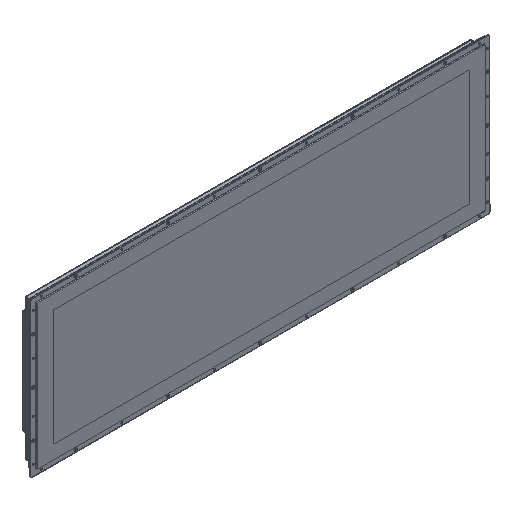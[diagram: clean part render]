
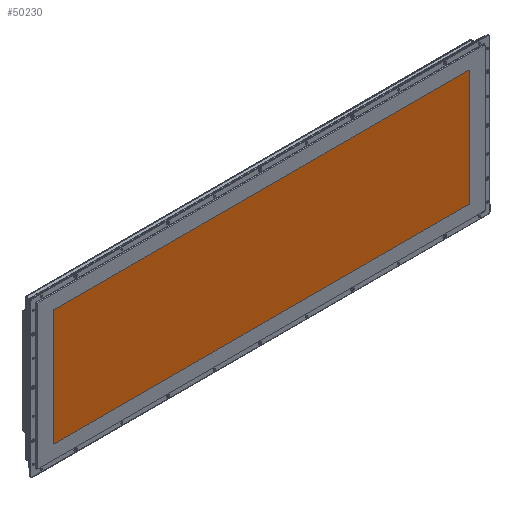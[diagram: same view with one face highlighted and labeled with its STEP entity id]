
A CAD part, isometric view. The second image highlights one B-rep face of the part: STEP entity #50230.
In plain terms, the highlighted planar face has unit normal (0, -1, 0).
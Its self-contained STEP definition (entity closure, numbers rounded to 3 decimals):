
#3707=CIRCLE('',#53946,2.);
#3708=CIRCLE('',#53947,2.);
#3709=CIRCLE('',#53948,2.);
#3710=CIRCLE('',#53949,2.);
#5783=FACE_OUTER_BOUND('',#8976,.T.);
#8976=EDGE_LOOP('',(#34650,#34651,#34652,#34653,#34654,#34655,#34656,#34657));
#12316=LINE('',#75775,#16234);
#12317=LINE('',#75779,#16235);
#12318=LINE('',#75783,#16236);
#12319=LINE('',#75786,#16237);
#16234=VECTOR('',#61292,10.);
#16235=VECTOR('',#61295,10.);
#16236=VECTOR('',#61298,10.);
#16237=VECTOR('',#61301,10.);
#20430=VERTEX_POINT('',#75771);
#20431=VERTEX_POINT('',#75772);
#20432=VERTEX_POINT('',#75774);
#20433=VERTEX_POINT('',#75776);
#20434=VERTEX_POINT('',#75778);
#20435=VERTEX_POINT('',#75780);
#20436=VERTEX_POINT('',#75782);
#20437=VERTEX_POINT('',#75784);
#25727=EDGE_CURVE('',#20430,#20431,#3707,.T.);
#25728=EDGE_CURVE('',#20431,#20432,#12316,.T.);
#25729=EDGE_CURVE('',#20432,#20433,#3708,.T.);
#25730=EDGE_CURVE('',#20433,#20434,#12317,.T.);
#25731=EDGE_CURVE('',#20434,#20435,#3709,.T.);
#25732=EDGE_CURVE('',#20435,#20436,#12318,.T.);
#25733=EDGE_CURVE('',#20436,#20437,#3710,.T.);
#25734=EDGE_CURVE('',#20437,#20430,#12319,.T.);
#34650=ORIENTED_EDGE('',*,*,#25727,.T.);
#34651=ORIENTED_EDGE('',*,*,#25728,.T.);
#34652=ORIENTED_EDGE('',*,*,#25729,.T.);
#34653=ORIENTED_EDGE('',*,*,#25730,.T.);
#34654=ORIENTED_EDGE('',*,*,#25731,.T.);
#34655=ORIENTED_EDGE('',*,*,#25732,.T.);
#34656=ORIENTED_EDGE('',*,*,#25733,.T.);
#34657=ORIENTED_EDGE('',*,*,#25734,.T.);
#45294=PLANE('',#53945);
#50230=ADVANCED_FACE('',(#5783),#45294,.T.);
#53945=AXIS2_PLACEMENT_3D('',#75770,#61288,#61289);
#53946=AXIS2_PLACEMENT_3D('',#75773,#61290,#61291);
#53947=AXIS2_PLACEMENT_3D('',#75777,#61293,#61294);
#53948=AXIS2_PLACEMENT_3D('',#75781,#61296,#61297);
#53949=AXIS2_PLACEMENT_3D('',#75785,#61299,#61300);
#61288=DIRECTION('center_axis',(0.,-1.,0.));
#61289=DIRECTION('ref_axis',(1.,0.,0.));
#61290=DIRECTION('center_axis',(0.,-1.,0.));
#61291=DIRECTION('ref_axis',(0.,0.,
-1.));
#61292=DIRECTION('',(0.,0.,-1.));
#61293=DIRECTION('center_axis',(0.,-1.,0.));
#61294=DIRECTION('ref_axis',(1.,0.,0.));
#61295=DIRECTION('',(1.,0.,0.));
#61296=DIRECTION('center_axis',(0.,-1.,0.));
#61297=DIRECTION('ref_axis',(0.,0.,
1.));
#61298=DIRECTION('',(0.,0.,1.));
#61299=DIRECTION('center_axis',(0.,-1.,0.));
#61300=DIRECTION('ref_axis',(-1.,0.,0.));
#61301=DIRECTION('',(-1.,0.,0.));
#75770=CARTESIAN_POINT('Origin',(0.,-5.5,
0.));
#75771=CARTESIAN_POINT('',(-449.,-5.5,126.));
#75772=CARTESIAN_POINT('',(-451.,-5.5,124.));
#75773=CARTESIAN_POINT('Origin',(-449.,-5.5,124.));
#75774=CARTESIAN_POINT('',(-451.,-5.5,-124.));
#75775=CARTESIAN_POINT('',(-451.,-5.5,62.));
#75776=CARTESIAN_POINT('',(-449.,-5.5,-126.));
#75777=CARTESIAN_POINT('Origin',(-449.,-5.5,-124.));
#75778=CARTESIAN_POINT('',(449.,-5.5,-126.));
#75779=CARTESIAN_POINT('',(-224.5,-5.5,-126.));
#75780=CARTESIAN_POINT('',(451.,-5.5,-124.));
#75781=CARTESIAN_POINT('Origin',(449.,-5.5,-124.));
#75782=CARTESIAN_POINT('',(451.,-5.5,124.));
#75783=CARTESIAN_POINT('',(451.,-5.5,-62.));
#75784=CARTESIAN_POINT('',(449.,-5.5,126.));
#75785=CARTESIAN_POINT('Origin',(449.,-5.5,124.));
#75786=CARTESIAN_POINT('',(224.5,-5.5,126.));
